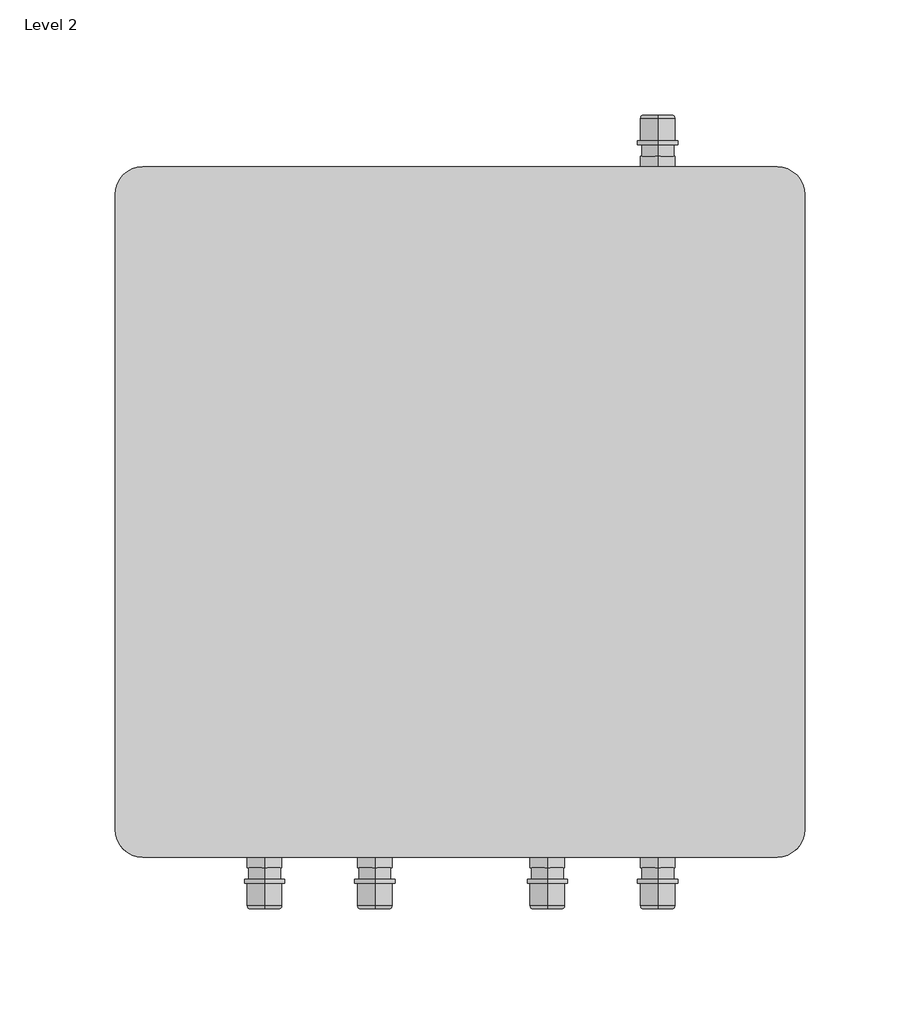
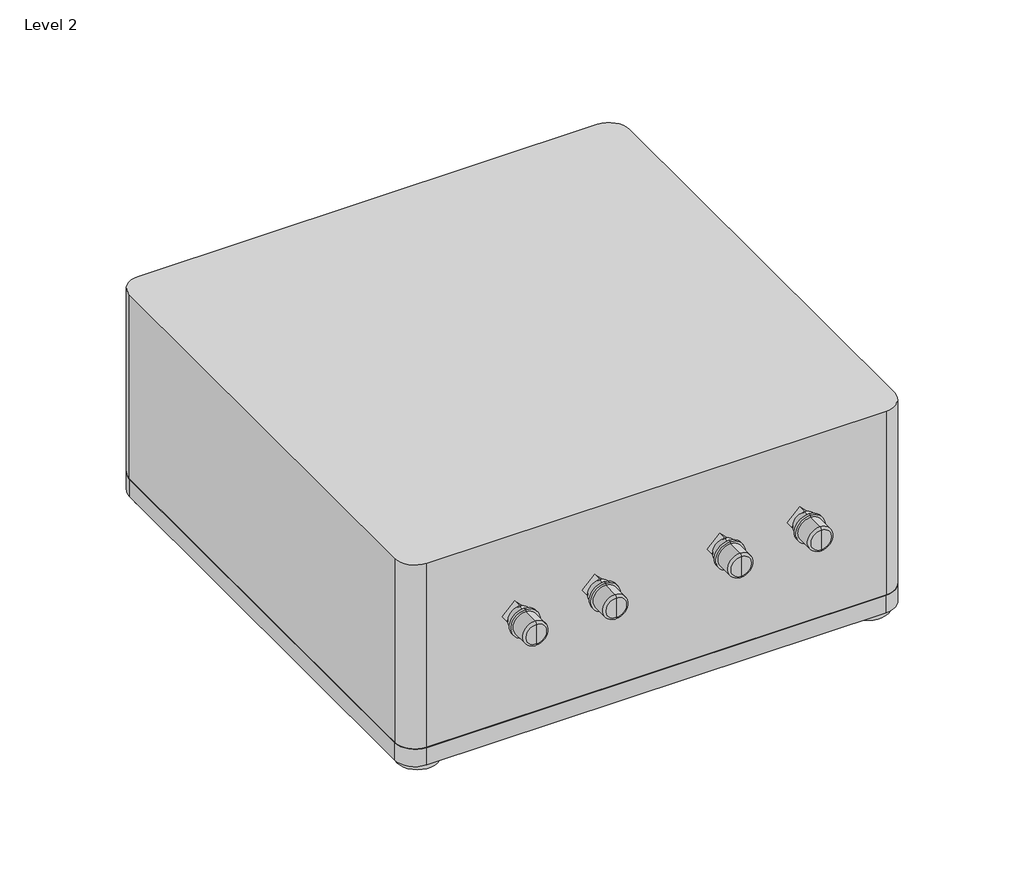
# One storey, incomplete: 1 alarm.
"""IFC4 building model written with IfcOpenShell, lengths in millimetres."""

from ifc_helpers import new_model, si_unit, origin, place, context, project, spatial, transform, mapped, element, save
from components import alarm_2842_b4f76887

model = new_model("IFC4")

# Units and contexts
model_context = context("Model", 3, world=origin())
ifc_project = project(units=[si_unit("LENGTHUNIT", "METRE", prefix="MILLI")], contexts=[model_context])

# Site, building, storey
site = spatial("IfcSite", under=ifc_project)
building = spatial("IfcBuilding", under=site)
storey = spatial("IfcBuildingStorey", under=building, Name="Level 2", Elevation=4000.0)

# Alarm
placement = place(None, origin())
alarm_2842_shape = alarm_2842_b4f76887(model_context)
element("IfcAlarm", 1, ObjectType="2842_Intrinsically Safe Barrier Unit : 2842", at=placement, inside=storey, context=model_context, shape_type="MappedRepresentation", body=[
    mapped(alarm_2842_shape, transform((317.4253408, 1247.8550077, 2600.0), x_axis=(1.0, 0.0, 0.0), y_axis=(0.0, -1.0, 0.0), z_axis=(0.0, 0.0, -1.0))),
])

save(model, "model.ifc")
